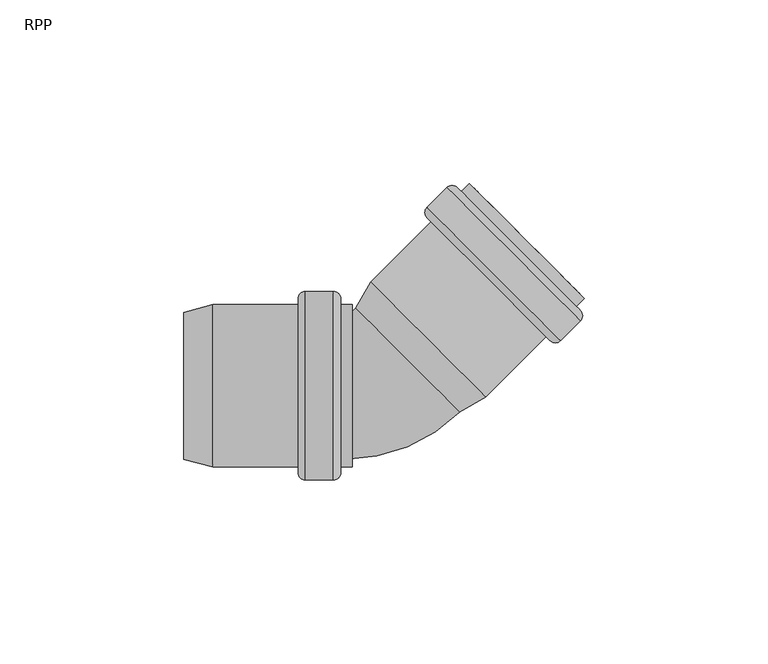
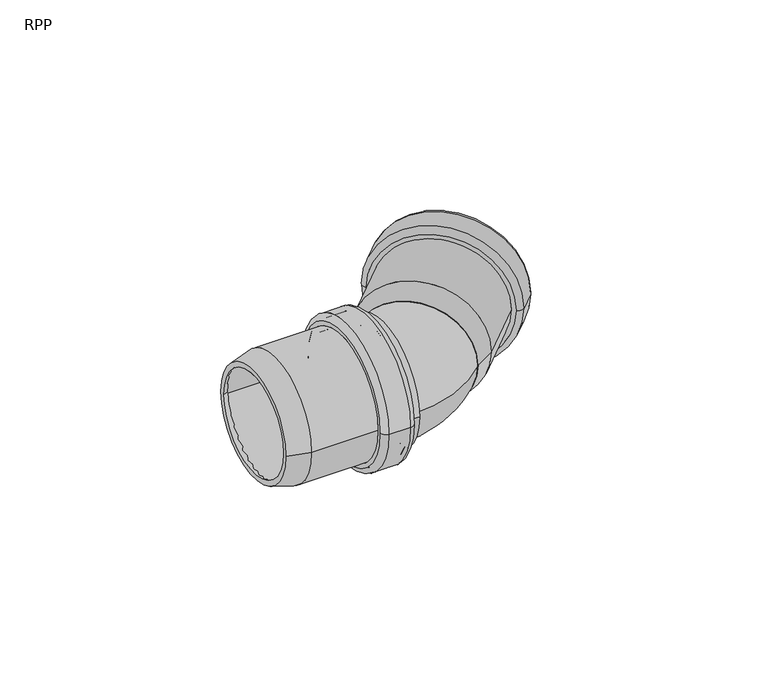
"""IFC4 building model written with IfcOpenShell, lengths in millimetres: pipe fitting geometry, RAUPIANO PLUS Bend : RPP."""

from ifc_helpers import new_model, si_unit, point, frame, origin, place, context, project, spatial, polyline, circle_curve, ellipse_curve, trimmed, source, transform, mapped, element, save
from ifc_brep_helpers import plane_surface, cylinder_surface, revolved_surface, advanced_brep


def rpp_f83cce01(model_context):
    return source(origin(), model_context, "Body", "AdvancedBrep", [
        advanced_brep(
        [(-21.0411255, -20.3, 0.0), (-21.0411255, 20.3, 0.0), (-45.8668443, 20.3, 0.0), (-45.8668443, -20.3, 0.0), (-20.5411255, -23.9, 0.0), (-20.5411255, 23.9, 0.0), (-21.0411255, 23.4, 0.0), (-21.0411255, -23.4, 0.0), (-13.5411255, -23.9, 0.0), (-13.5411255, 23.9, 0.0), (-13.0411255, -23.4, 0.0), (-13.0411255, 23.4, 0.0), (-8.1411255, -20.3, 0.0), (-8.1411255, 20.3, 0.0), (-13.0411255, 20.3, 0.0), (-13.0411255, -20.3, 0.0), (-11.2411255, -22.1, 0.0), (-11.2411255, 22.1, 0.0), (-8.1411255, 22.1, 0.0), (-8.1411255, -22.1, 0.0), (-13.2411255, -25.7, 0.0), (-13.2411255, 25.7, 0.0), (-11.2411255, 23.7, 0.0), (-11.2411255, -23.7, 0.0), (-20.8411255, -25.7, 0.0), (-20.8411255, 25.7, 0.0), (-22.8411255, -23.7, 0.0), (-22.8411255, 23.7, 0.0), (-46.1038188, -22.1, 0.0), (-46.1038188, 22.1, 0.0), (-22.8411255, 22.1, 0.0), (-22.8411255, -22.1, 0.0), (-53.9411255, -20.0, 0.0), (-53.9411255, 20.0, 0.0), (-53.9411255, 18.1365029, 0.0), (-53.9411255, -18.1365029, 0.0)],
        [
            (0, 1, circle_curve(frame((-21.0411255, 0.0, 0.0), z_axis=(1.0, 0.0, 0.0), x_axis=(0.0, 1.0, 0.0)), 20.3)),
            (1, 2),
            (2, 3, circle_curve(frame((-45.8668443, 0.0, 0.0), z_axis=(-1.0, 0.0, 0.0), x_axis=(0.0, 1.0, 0.0)), 20.3)),
            (3, 0),
            (4, 5, circle_curve(frame((-20.5411255, 0.0, 0.0), z_axis=(1.0, 0.0, 0.0), x_axis=(0.0, 1.0, 0.0)), 23.9)),
            (5, 6, circle_curve(frame((-20.5411255, 23.4, 0.0), z_axis=(0.0, 0.0, 1.0), x_axis=(0.0, -1.0, 0.0)), 0.5)),
            (6, 7, circle_curve(frame((-21.0411255, 0.0, 0.0), z_axis=(-1.0, 0.0, 0.0), x_axis=(0.0, 1.0, 0.0)), 23.4)),
            (7, 4, circle_curve(frame((-20.5411255, -23.4, 0.0), z_axis=(0.0, 0.0, 1.0), x_axis=(0.0, 1.0, 0.0)), 0.5)),
            (8, 9, circle_curve(frame((-13.5411255, 0.0, 0.0), z_axis=(1.0, 0.0, 0.0), x_axis=(0.0, 1.0, 0.0)), 23.9)),
            (9, 5),
            (4, 8),
            (10, 11, circle_curve(frame((-13.0411255, 0.0, 0.0), z_axis=(1.0, 0.0, 0.0), x_axis=(0.0, 1.0, 0.0)), 23.4)),
            (11, 9, circle_curve(frame((-13.5411255, 23.4, 0.0), z_axis=(0.0, 0.0, 1.0), x_axis=(0.0, -1.0, 0.0)), 0.5)),
            (8, 10, circle_curve(frame((-13.5411255, -23.4, 0.0), z_axis=(0.0, 0.0, 1.0), x_axis=(0.0, 1.0, 0.0)), 0.5)),
            (12, 13, circle_curve(frame((-8.1411255, 0.0, 0.0), z_axis=(1.0, 0.0, 0.0), x_axis=(0.0, 1.0, 0.0)), 20.3)),
            (13, 14),
            (14, 15, circle_curve(frame((-13.0411255, 0.0, 0.0), z_axis=(-1.0, 0.0, 0.0), x_axis=(0.0, 1.0, 0.0)), 20.3)),
            (15, 12),
            (16, 17, circle_curve(frame((-11.2411255, 0.0, 0.0), z_axis=(1.0, 0.0, 0.0), x_axis=(0.0, 1.0, 0.0)), 22.1)),
            (17, 18),
            (18, 19, circle_curve(frame((-8.1411255, 0.0, 0.0), z_axis=(-1.0, 0.0, 0.0), x_axis=(0.0, 1.0, 0.0)), 22.1)),
            (19, 16),
            (20, 21, circle_curve(frame((-13.2411255, 0.0, 0.0), z_axis=(1.0, 0.0, 0.0), x_axis=(0.0, 1.0, 0.0)), 25.7)),
            (21, 22, circle_curve(frame((-13.2411255, 23.7, 0.0), z_axis=(0.0, 0.0, -1.0), x_axis=(0.0, -1.0, 0.0)), 2.0)),
            (22, 23, circle_curve(frame((-11.2411255, 0.0, 0.0), z_axis=(-1.0, 0.0, 0.0), x_axis=(0.0, 1.0, 0.0)), 23.7)),
            (23, 20, circle_curve(frame((-13.2411255, -23.7, 0.0), z_axis=(0.0, 0.0, -1.0), x_axis=(0.0, 1.0, 0.0)), 2.0)),
            (24, 25, circle_curve(frame((-20.8411255, 0.0, 0.0), z_axis=(1.0, 0.0, 0.0), x_axis=(0.0, 1.0, 0.0)), 25.7)),
            (25, 21),
            (20, 24),
            (26, 27, circle_curve(frame((-22.8411255, 0.0, 0.0), z_axis=(1.0, 0.0, 0.0), x_axis=(0.0, 1.0, 0.0)), 23.7)),
            (27, 25, circle_curve(frame((-20.8411255, 23.7, 0.0), z_axis=(0.0, 0.0, -1.0), x_axis=(0.0, -1.0, 0.0)), 2.0)),
            (24, 26, circle_curve(frame((-20.8411255, -23.7, 0.0), z_axis=(0.0, 0.0, -1.0), x_axis=(0.0, 1.0, 0.0)), 2.0)),
            (28, 29, circle_curve(frame((-46.1038188, 0.0, 0.0), z_axis=(1.0, 0.0, 0.0), x_axis=(0.0, 1.0, 0.0)), 22.1)),
            (29, 30),
            (30, 31, circle_curve(frame((-22.8411255, 0.0, 0.0), z_axis=(-1.0, 0.0, 0.0), x_axis=(0.0, 1.0, 0.0)), 22.1)),
            (31, 28),
            (32, 33, circle_curve(frame((-53.9411255, 0.0, 0.0), z_axis=(1.0, 0.0, 0.0), x_axis=(0.0, 1.0, 0.0)), 20.0)),
            (33, 29),
            (28, 32),
            (2, 34),
            (34, 35, circle_curve(frame((-53.9411255, 0.0, 0.0), z_axis=(-1.0, 0.0, 0.0), x_axis=(0.0, 1.0, 0.0)), 18.1365029)),
            (35, 3),
            (1, 0, circle_curve(frame((-21.0411255, 0.0, 0.0), z_axis=(1.0, 0.0, 0.0), x_axis=(0.0, -1.0, 0.0)), 20.3)),
            (3, 2, circle_curve(frame((-45.8668443, 0.0, 0.0), z_axis=(-1.0, 0.0, 0.0), x_axis=(0.0, -1.0, 0.0)), 20.3)),
            (6, 7, circle_curve(frame((-21.0411255, 0.0, 0.0), z_axis=(1.0, 0.0, 0.0), x_axis=(0.0, -1.0, 0.0)), 23.4)),
            (5, 4, circle_curve(frame((-20.5411255, 0.0, 0.0), z_axis=(1.0, 0.0, 0.0), x_axis=(0.0, -1.0, 0.0)), 23.9)),
            (9, 8, circle_curve(frame((-13.5411255, 0.0, 0.0), z_axis=(1.0, 0.0, 0.0), x_axis=(0.0, -1.0, 0.0)), 23.9)),
            (11, 10, circle_curve(frame((-13.0411255, 0.0, 0.0), z_axis=(1.0, 0.0, 0.0), x_axis=(0.0, -1.0, 0.0)), 23.4)),
            (14, 15, circle_curve(frame((-13.0411255, 0.0, 0.0), z_axis=(1.0, 0.0, 0.0), x_axis=(0.0, -1.0, 0.0)), 20.3)),
            (13, 12, circle_curve(frame((-8.1411255, 0.0, 0.0), z_axis=(1.0, 0.0, 0.0), x_axis=(0.0, -1.0, 0.0)), 20.3)),
            (18, 19, circle_curve(frame((-8.1411255, 0.0, 0.0), z_axis=(1.0, 0.0, 0.0), x_axis=(0.0, -1.0, 0.0)), 22.1)),
            (17, 16, circle_curve(frame((-11.2411255, 0.0, 0.0), z_axis=(1.0, 0.0, 0.0), x_axis=(0.0, -1.0, 0.0)), 22.1)),
            (22, 23, circle_curve(frame((-11.2411255, 0.0, 0.0), z_axis=(1.0, 0.0, 0.0), x_axis=(0.0, -1.0, 0.0)), 23.7)),
            (21, 20, circle_curve(frame((-13.2411255, 0.0, 0.0), z_axis=(1.0, 0.0, 0.0), x_axis=(0.0, -1.0, 0.0)), 25.7)),
            (25, 24, circle_curve(frame((-20.8411255, 0.0, 0.0), z_axis=(1.0, 0.0, 0.0), x_axis=(0.0, -1.0, 0.0)), 25.7)),
            (27, 26, circle_curve(frame((-22.8411255, 0.0, 0.0), z_axis=(1.0, 0.0, 0.0), x_axis=(0.0, -1.0, 0.0)), 23.7)),
            (30, 31, circle_curve(frame((-22.8411255, 0.0, 0.0), z_axis=(1.0, 0.0, 0.0), x_axis=(0.0, -1.0, 0.0)), 22.1)),
            (29, 28, circle_curve(frame((-46.1038188, 0.0, 0.0), z_axis=(1.0, 0.0, 0.0), x_axis=(0.0, -1.0, 0.0)), 22.1)),
            (33, 32, circle_curve(frame((-53.9411255, 0.0, 0.0), z_axis=(1.0, 0.0, 0.0), x_axis=(0.0, -1.0, 0.0)), 20.0)),
            (34, 35, circle_curve(frame((-53.9411255, 0.0, 0.0), z_axis=(1.0, 0.0, 0.0), x_axis=(0.0, -1.0, 0.0)), 18.1365029)),
        ],
        [
            revolved_surface(polyline([(-45.8668443, 20.3, 0.0), (-21.0411255, 20.3, 0.0)]), (-53.9411255, 0.0, 0.0), (-1.0, 0.0, 0.0)),
            revolved_surface(trimmed(ellipse_curve(frame((-20.5411255, 23.4, 0.0), z_axis=(0.0, 0.0, -1.0), x_axis=(0.0, -1.0, 0.0)), 0.5, 0.5), [point((-21.0411255, 23.4, 0.0))], [point((-20.5411255, 23.9, 0.0))], True, "CARTESIAN"), (-53.9411255, 0.0, 0.0), (-1.0, 0.0, 0.0)),
            revolved_surface(polyline([(-20.5411255, 23.9, 0.0), (-13.5411255, 23.9, 0.0)]), (-53.9411255, 0.0, 0.0), (-1.0, 0.0, 0.0)),
            revolved_surface(trimmed(ellipse_curve(frame((-13.5411255, 23.4, 0.0), z_axis=(0.0, 0.0, -1.0), x_axis=(0.0, -1.0, 0.0)), 0.5, 0.5), [point((-13.5411255, 23.9, 0.0))], [point((-13.0411255, 23.4, 0.0))], True, "CARTESIAN"), (-53.9411255, 0.0, 0.0), (-1.0, 0.0, 0.0)),
            revolved_surface(polyline([(-13.0411255, 20.3, 0.0), (-8.141125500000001, 20.3, 0.0)]), (-53.9411255, 0.0, 0.0), (-1.0, 0.0, 0.0)),
            cylinder_surface(frame((-53.9411255, 0.0, 0.0), z_axis=(-1.0, 0.0, 0.0), x_axis=(0.0, 1.0, 0.0)), 22.1),
            revolved_surface(trimmed(ellipse_curve(frame((-13.2411255, 23.7, 0.0), z_axis=(0.0, 0.0, 1.0), x_axis=(0.0, -1.0, 0.0)), 2.0, 2.0), [point((-11.2411255, 23.7, 0.0))], [point((-13.2411255, 25.7, 0.0))], True, "CARTESIAN"), (-53.9411255, 0.0, 0.0), (-1.0, 0.0, 0.0)),
            cylinder_surface(frame((-53.9411255, 0.0, 0.0), z_axis=(-1.0, 0.0, 0.0), x_axis=(0.0, 1.0, 0.0)), 25.7),
            revolved_surface(trimmed(ellipse_curve(frame((-20.8411255, 23.7, 0.0), z_axis=(0.0, 0.0, 1.0), x_axis=(0.0, -1.0, 0.0)), 2.0, 2.0), [point((-20.8411255, 25.7, 0.0))], [point((-22.8411255, 23.7, 0.0))], True, "CARTESIAN"), (-53.9411255, 0.0, 0.0), (-1.0, 0.0, 0.0)),
            revolved_surface(polyline([(-46.1038188, 22.1, 0.0), (-53.9411255, 20.0, 0.0)]), (-53.9411255, 0.0, 0.0), (-1.0, 0.0, 0.0)),
            revolved_surface(polyline([(-53.9411255, 18.1365029, 0.0), (-45.8668443, 20.3, 0.0)]), (-53.9411255, 0.0, 0.0), (-1.0, 0.0, 0.0)),
            revolved_surface(polyline([(-45.8668443, -20.3, 0.0), (-21.0411255, -20.3, 0.0)]), (-53.9411255, 0.0, 0.0), (-1.0, 0.0, 0.0)),
            plane_surface(frame((-21.0411255, 0.0, 0.0), z_axis=(1.0, 0.0, 0.0), x_axis=(0.0, -1.0, 0.0))),
            revolved_surface(trimmed(ellipse_curve(frame((-20.5411255, -23.4, 0.0), z_axis=(0.0, 0.0, 1.0), x_axis=(0.0, 1.0, 0.0)), 0.5, 0.5), [point((-21.0411255, -23.4, 0.0))], [point((-20.5411255, -23.9, 0.0))], True, "CARTESIAN"), (-53.9411255, 0.0, 0.0), (-1.0, 0.0, 0.0)),
            revolved_surface(polyline([(-20.5411255, -23.9, 0.0), (-13.5411255, -23.9, 0.0)]), (-53.9411255, 0.0, 0.0), (-1.0, 0.0, 0.0)),
            revolved_surface(trimmed(ellipse_curve(frame((-13.5411255, -23.4, 0.0), z_axis=(0.0, 0.0, 1.0), x_axis=(0.0, 1.0, 0.0)), 0.5, 0.5), [point((-13.5411255, -23.9, 0.0))], [point((-13.0411255, -23.4, 0.0))], True, "CARTESIAN"), (-53.9411255, 0.0, 0.0), (-1.0, 0.0, 0.0)),
            plane_surface(frame((-13.0411255, 0.0, 0.0), z_axis=(-1.0, 0.0, 0.0), x_axis=(0.0, -1.0, 0.0))),
            revolved_surface(polyline([(-13.0411255, -20.3, 0.0), (-8.141125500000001, -20.3, 0.0)]), (-53.9411255, 0.0, 0.0), (-1.0, 0.0, 0.0)),
            plane_surface(frame((-8.1411255, 0.0, 0.0), z_axis=(1.0, 0.0, 0.0), x_axis=(0.0, -1.0, 0.0))),
            cylinder_surface(frame((-53.9411255, 0.0, 0.0), z_axis=(-1.0, 0.0, 0.0), x_axis=(0.0, -1.0, 0.0)), 22.1),
            plane_surface(frame((-11.2411255, 0.0, 0.0), z_axis=(1.0, 0.0, 0.0), x_axis=(0.0, -1.0, 0.0))),
            revolved_surface(trimmed(ellipse_curve(frame((-13.2411255, -23.7, 0.0), z_axis=(0.0, 0.0, -1.0), x_axis=(0.0, 1.0, 0.0)), 2.0, 2.0), [point((-11.2411255, -23.7, 0.0))], [point((-13.2411255, -25.7, 0.0))], True, "CARTESIAN"), (-53.9411255, 0.0, 0.0), (-1.0, 0.0, 0.0)),
            cylinder_surface(frame((-53.9411255, 0.0, 0.0), z_axis=(-1.0, 0.0, 0.0), x_axis=(0.0, -1.0, 0.0)), 25.7),
            revolved_surface(trimmed(ellipse_curve(frame((-20.8411255, -23.7, 0.0), z_axis=(0.0, 0.0, -1.0), x_axis=(0.0, 1.0, 0.0)), 2.0, 2.0), [point((-20.8411255, -25.7, 0.0))], [point((-22.8411255, -23.7, 0.0))], True, "CARTESIAN"), (-53.9411255, 0.0, 0.0), (-1.0, 0.0, 0.0)),
            plane_surface(frame((-22.8411255, 0.0, 0.0), z_axis=(-1.0, 0.0, 0.0), x_axis=(0.0, -1.0, 0.0))),
            revolved_surface(polyline([(-46.1038188, -22.1, 0.0), (-53.9411255, -20.0, 0.0)]), (-53.9411255, 0.0, 0.0), (-1.0, 0.0, 0.0)),
            plane_surface(frame((-53.9411255, 0.0, 0.0), z_axis=(-1.0, 0.0, 0.0), x_axis=(0.0, -1.0, 0.0))),
            revolved_surface(polyline([(-53.9411255, -18.1365029, 0.0), (-45.8668443, -20.3, 0.0)]), (-53.9411255, 0.0, 0.0), (-1.0, 0.0, 0.0)),
        ],
        [
            (0, [[1, 2, 3, 4]]),
            (1, [[5, 6, 7, 8]]),
            (2, [[9, 10, -5, 11]]),
            (3, [[12, 13, -9, 14]]),
            (4, [[15, 16, 17, 18]]),
            (5, [[19, 20, 21, 22]]),
            (6, [[23, 24, 25, 26]]),
            (7, [[27, 28, -23, 29]]),
            (8, [[30, 31, -27, 32]]),
            (5, [[33, 34, 35, 36]]),
            (9, [[37, 38, -33, 39]]),
            (10, [[-3, 40, 41, 42]]),
            (11, [[43, -4, 44, -2]]),
            (12, [[45, -7], [-43, -1]]),
            (13, [[46, -8, -45, -6]]),
            (14, [[47, -11, -46, -10]]),
            (15, [[48, -14, -47, -13]]),
            (16, [[-48, -12], [49, -17]]),
            (17, [[50, -18, -49, -16]]),
            (18, [[51, -21], [-50, -15]]),
            (19, [[52, -22, -51, -20]]),
            (20, [[53, -25], [-52, -19]]),
            (21, [[54, -26, -53, -24]]),
            (22, [[55, -29, -54, -28]]),
            (23, [[56, -32, -55, -31]]),
            (24, [[-56, -30], [57, -35]]),
            (19, [[58, -36, -57, -34]]),
            (25, [[59, -39, -58, -38]]),
            (26, [[-59, -37], [60, -41]]),
            (27, [[-44, -42, -60, -40]]),
        ],
    ),
        advanced_brep(
        [(19.8538814, -5.7950069, 0.0), (-5.7950069, 19.8538814, 0.0), (-1.6154514, 27.0930839, 0.0), (27.0930839, -1.6154514, 0.0), (28.1983098, -3.0558099, 0.0), (-3.0558099, 28.1983098, 0.0), (-7.1126984, 21.1715729, 0.0), (21.1715729, -7.1126984, 0.0), (44.647518, 13.3933983, 0.0), (13.3933983, 44.647518, 0.0), (53.9813275, 17.636039, 0.0), (17.636039, 53.9813275, 0.0), (12.2620274, 48.607316, 0.0), (48.607316, 12.2620274, 0.0), (55.0419877, 23.787868, 0.0), (23.787868, 55.0419877, 0.0), (21.5958369, 52.8499567, 0.0), (52.8499567, 21.5958369, 0.0), (50.3043723, 21.5958369, 0.0), (21.5958369, 50.3043723, 0.0), (25.0606602, 53.7691955, 0.0), (53.7691955, 25.0606602, 0.0), (47.5466558, 13.7469517, 0.0), (13.7469517, 47.5466558, 0.0), (18.6966991, 52.4964033, 0.0), (52.4964033, 18.6966991, 0.0), (15.9389827, 44.647518, 0.0), (44.647518, 15.9389827, 0.0), (12.2620274, 45.7788889, 0.0), (45.7788889, 12.2620274, 0.0), (53.9813275, 20.4644661, 0.0), (20.4644661, 53.9813275, 0.0), (19.4038059, 52.4964033, 0.0), (52.4964033, 19.4038059, 0.0), (46.839549, 13.7469517, 0.0), (13.7469517, 46.839549, 0.0)],
        [
            (0, 1, circle_curve(frame((7.0294373, 7.0294373, 0.0), z_axis=(-0.7071067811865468, -0.7071067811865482, 0.0), x_axis=(-0.7071067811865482, 0.7071067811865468, 0.0)), 18.1365029)),
            (1, 2),
            (2, 3, circle_curve(frame((12.7388162, 12.7388162, 0.0), z_axis=(0.7071067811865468, 0.7071067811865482, 0.0), x_axis=(-0.7071067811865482, 0.7071067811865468, 0.0)), 20.3)),
            (3, 0),
            (4, 5, circle_curve(frame((12.57125, 12.57125, 0.0), z_axis=(-0.7071067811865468, -0.7071067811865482, 0.0), x_axis=(-0.7071067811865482, 0.7071067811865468, 0.0)), 22.1)),
            (5, 6),
            (6, 7, circle_curve(frame((7.0294373, 7.0294373, 0.0), z_axis=(0.7071067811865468, 0.7071067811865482, 0.0), x_axis=(-0.7071067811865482, 0.7071067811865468, 0.0)), 20.0)),
            (7, 4),
            (8, 9, circle_curve(frame((29.0204581, 29.0204581, 0.0), z_axis=(-0.7071067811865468, -0.7071067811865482, 0.0), x_axis=(-0.7071067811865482, 0.7071067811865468, 0.0)), 22.1)),
            (9, 5),
            (4, 8),
            (10, 11, circle_curve(frame((35.8086832, 35.8086832, 0.0), z_axis=(-0.7071067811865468, -0.7071067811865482, 0.0), x_axis=(-0.7071067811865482, 0.7071067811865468, 0.0)), 25.7)),
            (11, 12),
            (12, 13, circle_curve(frame((30.4346717, 30.4346717, 0.0), z_axis=(0.7071067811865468, 0.7071067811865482, 0.0), x_axis=(-0.7071067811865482, 0.7071067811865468, 0.0)), 25.7)),
            (13, 10),
            (14, 15, circle_curve(frame((39.4149278, 39.4149278, 0.0), z_axis=(-0.7071067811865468, -0.7071067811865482, 0.0), x_axis=(-0.7071067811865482, 0.7071067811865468, 0.0)), 22.1)),
            (15, 16),
            (16, 17, circle_curve(frame((37.2228968, 37.2228968, 0.0), z_axis=(0.7071067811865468, 0.7071067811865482, 0.0), x_axis=(-0.7071067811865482, 0.7071067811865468, 0.0)), 22.1)),
            (17, 14),
            (18, 19, circle_curve(frame((35.9501046, 35.9501046, 0.0), z_axis=(-0.7071067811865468, -0.7071067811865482, 0.0), x_axis=(-0.7071067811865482, 0.7071067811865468, 0.0)), 20.3)),
            (19, 20),
            (20, 21, circle_curve(frame((39.4149278, 39.4149278, 0.0), z_axis=(0.7071067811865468, 0.7071067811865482, 0.0), x_axis=(-0.7071067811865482, 0.7071067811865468, 0.0)), 20.3)),
            (21, 18),
            (22, 23, circle_curve(frame((30.6468037, 30.6468037, 0.0), z_axis=(-0.7071067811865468, -0.7071067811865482, 0.0), x_axis=(-0.7071067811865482, 0.7071067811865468, 0.0)), 23.9)),
            (23, 24),
            (24, 25, circle_curve(frame((35.5965512, 35.5965512, 0.0), z_axis=(0.7071067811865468, 0.7071067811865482, 0.0), x_axis=(-0.7071067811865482, 0.7071067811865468, 0.0)), 23.9)),
            (25, 22),
            (2, 26),
            (26, 27, circle_curve(frame((30.2932504, 30.2932504, 0.0), z_axis=(0.7071067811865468, 0.7071067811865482, 0.0), x_axis=(-0.7071067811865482, 0.7071067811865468, 0.0)), 20.3)),
            (27, 3),
            (1, 0, circle_curve(frame((7.0294373, 7.0294373, 0.0), z_axis=(-0.7071067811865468, -0.7071067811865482, 0.0), x_axis=(0.7071067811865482, -0.7071067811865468, 0.0)), 18.1365029)),
            (3, 2, circle_curve(frame((12.7388162, 12.7388162, 0.0), z_axis=(0.7071067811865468, 0.7071067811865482, 0.0), x_axis=(0.7071067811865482, -0.7071067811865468, 0.0)), 20.3)),
            (6, 7, circle_curve(frame((7.0294373, 7.0294373, 0.0), z_axis=(-0.7071067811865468, -0.7071067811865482, 0.0), x_axis=(0.7071067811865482, -0.7071067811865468, 0.0)), 20.0)),
            (5, 4, circle_curve(frame((12.57125, 12.57125, 0.0), z_axis=(-0.7071067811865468, -0.7071067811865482, 0.0), x_axis=(0.7071067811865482, -0.7071067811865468, 0.0)), 22.1)),
            (9, 8, circle_curve(frame((29.0204581, 29.0204581, 0.0), z_axis=(-0.7071067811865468, -0.7071067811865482, 0.0), x_axis=(0.7071067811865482, -0.7071067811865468, 0.0)), 22.1)),
            (28, 29, circle_curve(frame((29.0204581, 29.0204581, 0.0), z_axis=(-0.7071067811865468, -0.7071067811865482, 0.0), x_axis=(0.7071067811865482, -0.7071067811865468, 0.0)), 23.7)),
            (29, 28, circle_curve(frame((29.0204581, 29.0204581, 0.0), z_axis=(-0.7071067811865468, -0.7071067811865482, 0.0), x_axis=(-0.7071067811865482, 0.7071067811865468, 0.0)), 23.7)),
            (11, 10, circle_curve(frame((35.8086832, 35.8086832, 0.0), z_axis=(-0.7071067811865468, -0.7071067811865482, 0.0), x_axis=(0.7071067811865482, -0.7071067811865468, 0.0)), 25.7)),
            (13, 12, circle_curve(frame((30.4346717, 30.4346717, 0.0), z_axis=(0.7071067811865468, 0.7071067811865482, 0.0), x_axis=(0.7071067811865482, -0.7071067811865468, 0.0)), 25.7)),
            (30, 31, circle_curve(frame((37.2228968, 37.2228968, 0.0), z_axis=(0.7071067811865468, 0.7071067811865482, 0.0), x_axis=(0.7071067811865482, -0.7071067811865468, 0.0)), 23.7)),
            (31, 30, circle_curve(frame((37.2228968, 37.2228968, 0.0), z_axis=(0.7071067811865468, 0.7071067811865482, 0.0), x_axis=(-0.7071067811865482, 0.7071067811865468, 0.0)), 23.7)),
            (16, 17, circle_curve(frame((37.2228968, 37.2228968, 0.0), z_axis=(-0.7071067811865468, -0.7071067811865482, 0.0), x_axis=(0.7071067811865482, -0.7071067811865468, 0.0)), 22.1)),
            (15, 14, circle_curve(frame((39.4149278, 39.4149278, 0.0), z_axis=(-0.7071067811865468, -0.7071067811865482, 0.0), x_axis=(0.7071067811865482, -0.7071067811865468, 0.0)), 22.1)),
            (20, 21, circle_curve(frame((39.4149278, 39.4149278, 0.0), z_axis=(-0.7071067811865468, -0.7071067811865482, 0.0), x_axis=(0.7071067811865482, -0.7071067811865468, 0.0)), 20.3)),
            (19, 18, circle_curve(frame((35.9501046, 35.9501046, 0.0), z_axis=(-0.7071067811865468, -0.7071067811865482, 0.0), x_axis=(0.7071067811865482, -0.7071067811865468, 0.0)), 20.3)),
            (32, 33, circle_curve(frame((35.9501046, 35.9501046, 0.0), z_axis=(-0.7071067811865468, -0.7071067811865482, 0.0), x_axis=(0.7071067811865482, -0.7071067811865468, 0.0)), 23.4)),
            (33, 32, circle_curve(frame((35.9501046, 35.9501046, 0.0), z_axis=(-0.7071067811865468, -0.7071067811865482, 0.0), x_axis=(-0.7071067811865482, 0.7071067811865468, 0.0)), 23.4)),
            (23, 22, circle_curve(frame((30.6468037, 30.6468037, 0.0), z_axis=(-0.7071067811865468, -0.7071067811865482, 0.0), x_axis=(0.7071067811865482, -0.7071067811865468, 0.0)), 23.9)),
            (25, 24, circle_curve(frame((35.5965512, 35.5965512, 0.0), z_axis=(0.7071067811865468, 0.7071067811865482, 0.0), x_axis=(0.7071067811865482, -0.7071067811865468, 0.0)), 23.9)),
            (34, 35, circle_curve(frame((30.2932504, 30.2932504, 0.0), z_axis=(0.7071067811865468, 0.7071067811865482, 0.0), x_axis=(0.7071067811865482, -0.7071067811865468, 0.0)), 23.4)),
            (35, 34, circle_curve(frame((30.2932504, 30.2932504, 0.0), z_axis=(0.7071067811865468, 0.7071067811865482, 0.0), x_axis=(-0.7071067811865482, 0.7071067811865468, 0.0)), 23.4)),
            (26, 27, circle_curve(frame((30.2932504, 30.2932504, 0.0), z_axis=(-0.7071067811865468, -0.7071067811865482, 0.0), x_axis=(0.7071067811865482, -0.7071067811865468, 0.0)), 20.3)),
            (12, 28, circle_curve(frame((13.676241, 47.1931024, 0.0), z_axis=(0.0, 0.0, 1.0), x_axis=(0.7071067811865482, -0.7071067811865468, 0.0)), 2.0)),
            (29, 13, circle_curve(frame((47.1931024, 13.676241, 0.0), z_axis=(0.0, 0.0, 1.0), x_axis=(-0.7071067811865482, 0.7071067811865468, 0.0)), 2.0)),
            (31, 11, circle_curve(frame((19.0502525, 52.567114, 0.0), z_axis=(0.0, 0.0, 1.0), x_axis=(0.7071067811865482, -0.7071067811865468, 0.0)), 2.0)),
            (10, 30, circle_curve(frame((52.567114, 19.0502525, 0.0), z_axis=(0.0, 0.0, 1.0), x_axis=(-0.7071067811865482, 0.7071067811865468, 0.0)), 2.0)),
            (24, 32, circle_curve(frame((19.0502525, 52.1428499, 0.0), z_axis=(0.0, 0.0, -1.0), x_axis=(0.7071067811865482, -0.7071067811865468, 0.0)), 0.5)),
            (33, 25, circle_curve(frame((52.1428499, 19.0502525, 0.0), z_axis=(0.0, 0.0, -1.0), x_axis=(-0.7071067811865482, 0.7071067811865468, 0.0)), 0.5)),
            (35, 23, circle_curve(frame((14.1005051, 47.1931024, 0.0), z_axis=(0.0, 0.0, -1.0), x_axis=(0.7071067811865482, -0.7071067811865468, 0.0)), 0.5)),
            (22, 34, circle_curve(frame((47.1931024, 14.1005051, 0.0), z_axis=(0.0, 0.0, -1.0), x_axis=(-0.7071067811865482, 0.7071067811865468, 0.0)), 0.5)),
        ],
        [
            revolved_surface(polyline([(-1.6154514, 27.0930839, 0.0), (-5.7950069, 19.8538814, 0.0)]), (7.0294373, 7.0294373, 0.0), (0.7071067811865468, 0.7071067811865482, 0.0)),
            revolved_surface(polyline([(-7.1126984, 21.1715729, 0.0), (-3.0558099, 28.1983098, 0.0)]), (7.0294373, 7.0294373, 0.0), (0.7071067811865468, 0.7071067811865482, 0.0)),
            cylinder_surface(frame((7.0294373, 7.0294373, 0.0), z_axis=(0.7071067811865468, 0.7071067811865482, 0.0), x_axis=(-0.7071067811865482, 0.7071067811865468, 0.0)), 22.1),
            cylinder_surface(frame((7.0294373, 7.0294373, 0.0), z_axis=(0.7071067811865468, 0.7071067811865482, 0.0), x_axis=(-0.7071067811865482, 0.7071067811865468, 0.0)), 25.7),
            revolved_surface(polyline([(25.06066019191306, 53.76919550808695, 0.0), (21.59583694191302, 50.304372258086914, 0.0)]), (7.0294373, 7.0294373, 0.0), (0.7071067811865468, 0.7071067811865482, 0.0)),
            revolved_surface(polyline([(18.696699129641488, 52.49640327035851, 0.0), (13.746951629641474, 47.54665577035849, 0.0)]), (7.0294373, 7.0294373, 0.0), (0.7071067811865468, 0.7071067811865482, 0.0)),
            revolved_surface(polyline([(15.938982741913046, 44.64751805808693, 0.0), (-1.6154514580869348, 27.093083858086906, 0.0)]), (7.0294373, 7.0294373, 0.0), (0.7071067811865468, 0.7071067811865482, 0.0)),
            revolved_surface(polyline([(27.0930839, -1.6154514, 0.0), (19.8538814, -5.7950069, 0.0)]), (7.0294373, 7.0294373, 0.0), (0.7071067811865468, 0.7071067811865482, 0.0)),
            plane_surface(frame((7.0294373, 7.0294373, 0.0), z_axis=(-0.7071067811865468, -0.7071067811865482, 0.0), x_axis=(0.7071067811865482, -0.7071067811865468, 0.0))),
            revolved_surface(polyline([(21.1715729, -7.1126984, 0.0), (28.1983098, -3.0558099, 0.0)]), (7.0294373, 7.0294373, 0.0), (0.7071067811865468, 0.7071067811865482, 0.0)),
            cylinder_surface(frame((7.0294373, 7.0294373, 0.0), z_axis=(0.7071067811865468, 0.7071067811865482, 0.0), x_axis=(0.7071067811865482, -0.7071067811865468, 0.0)), 22.1),
            plane_surface(frame((29.0204581, 29.0204581, 0.0), z_axis=(-0.7071067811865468, -0.7071067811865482, 0.0), x_axis=(0.7071067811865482, -0.7071067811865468, 0.0))),
            cylinder_surface(frame((7.0294373, 7.0294373, 0.0), z_axis=(0.7071067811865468, 0.7071067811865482, 0.0), x_axis=(0.7071067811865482, -0.7071067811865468, 0.0)), 25.7),
            plane_surface(frame((37.2228968, 37.2228968, 0.0), z_axis=(0.7071067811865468, 0.7071067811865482, 0.0), x_axis=(0.7071067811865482, -0.7071067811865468, 0.0))),
            plane_surface(frame((39.4149278, 39.4149278, 0.0), z_axis=(0.7071067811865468, 0.7071067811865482, 0.0), x_axis=(0.7071067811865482, -0.7071067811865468, 0.0))),
            revolved_surface(polyline([(53.769195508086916, 25.06066019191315, 0.0), (50.304372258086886, 21.595836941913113, 0.0)]), (7.0294373, 7.0294373, 0.0), (0.7071067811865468, 0.7071067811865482, 0.0)),
            plane_surface(frame((35.9501046, 35.9501046, 0.0), z_axis=(-0.7071067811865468, -0.7071067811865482, 0.0), x_axis=(0.7071067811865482, -0.7071067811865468, 0.0))),
            revolved_surface(polyline([(52.4964032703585, 18.69669912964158, 0.0), (47.546655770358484, 13.746951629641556, 0.0)]), (7.0294373, 7.0294373, 0.0), (0.7071067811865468, 0.7071067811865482, 0.0)),
            plane_surface(frame((30.2932504, 30.2932504, 0.0), z_axis=(0.7071067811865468, 0.7071067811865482, 0.0), x_axis=(0.7071067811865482, -0.7071067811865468, 0.0))),
            revolved_surface(polyline([(44.6475180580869, 15.938982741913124, 0.0), (27.093083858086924, -1.6154514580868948, 0.0)]), (7.0294373, 7.0294373, 0.0), (0.7071067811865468, 0.7071067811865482, 0.0)),
            revolved_surface(trimmed(ellipse_curve(frame((13.676241, 47.1931024, 0.0), z_axis=(0.0, 0.0, -1.0), x_axis=(0.7071067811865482, -0.7071067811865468, 0.0)), 2.0, 2.0), [point((12.2620274, 45.7788889, 0.0))], [point((12.2620274, 48.607316, 0.0))], True, "CARTESIAN"), (7.0294373, 7.0294373, 0.0), (0.7071067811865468, 0.7071067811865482, 0.0)),
            revolved_surface(trimmed(ellipse_curve(frame((19.0502525, 52.567114, 0.0), z_axis=(0.0, 0.0, -1.0), x_axis=(0.7071067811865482, -0.7071067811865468, 0.0)), 2.0, 2.0), [point((17.636039, 53.9813275, 0.0))], [point((20.4644661, 53.9813275, 0.0))], True, "CARTESIAN"), (7.0294373, 7.0294373, 0.0), (0.7071067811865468, 0.7071067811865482, 0.0)),
            revolved_surface(trimmed(ellipse_curve(frame((19.0502525, 52.1428499, 0.0), z_axis=(0.0, 0.0, 1.0), x_axis=(0.7071067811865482, -0.7071067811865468, 0.0)), 0.5, 0.5), [point((19.4038059, 52.4964033, 0.0))], [point((18.6966991, 52.4964033, 0.0))], True, "CARTESIAN"), (7.0294373, 7.0294373, 0.0), (0.7071067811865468, 0.7071067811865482, 0.0)),
            revolved_surface(trimmed(ellipse_curve(frame((14.1005051, 47.1931024, 0.0), z_axis=(0.0, 0.0, 1.0), x_axis=(0.7071067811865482, -0.7071067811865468, 0.0)), 0.5, 0.5), [point((13.7469517, 47.5466558, 0.0))], [point((13.7469517, 46.839549, 0.0))], True, "CARTESIAN"), (7.0294373, 7.0294373, 0.0), (0.7071067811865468, 0.7071067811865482, 0.0)),
            revolved_surface(trimmed(ellipse_curve(frame((47.1931024, 13.676241, 0.0), z_axis=(0.0, 0.0, 1.0), x_axis=(-0.7071067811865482, 0.7071067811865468, 0.0)), 2.0, 2.0), [point((45.7788889, 12.2620274, 0.0))], [point((48.607316, 12.2620274, 0.0))], True, "CARTESIAN"), (7.0294373, 7.0294373, 0.0), (0.7071067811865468, 0.7071067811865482, 0.0)),
            revolved_surface(trimmed(ellipse_curve(frame((52.567114, 19.0502525, 0.0), z_axis=(0.0, 0.0, 1.0), x_axis=(-0.7071067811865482, 0.7071067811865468, 0.0)), 2.0, 2.0), [point((53.9813275, 17.636039, 0.0))], [point((53.9813275, 20.4644661, 0.0))], True, "CARTESIAN"), (7.0294373, 7.0294373, 0.0), (0.7071067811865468, 0.7071067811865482, 0.0)),
            revolved_surface(trimmed(ellipse_curve(frame((52.1428499, 19.0502525, 0.0), z_axis=(0.0, 0.0, -1.0), x_axis=(-0.7071067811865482, 0.7071067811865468, 0.0)), 0.5, 0.5), [point((52.4964033, 19.4038059, 0.0))], [point((52.4964033, 18.6966991, 0.0))], True, "CARTESIAN"), (7.0294373, 7.0294373, 0.0), (0.7071067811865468, 0.7071067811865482, 0.0)),
            revolved_surface(trimmed(ellipse_curve(frame((47.1931024, 14.1005051, 0.0), z_axis=(0.0, 0.0, -1.0), x_axis=(-0.7071067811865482, 0.7071067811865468, 0.0)), 0.5, 0.5), [point((47.5466558, 13.7469517, 0.0))], [point((46.839549, 13.7469517, 0.0))], True, "CARTESIAN"), (7.0294373, 7.0294373, 0.0), (0.7071067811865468, 0.7071067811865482, 0.0)),
        ],
        [
            (0, [[1, 2, 3, 4]]),
            (1, [[5, 6, 7, 8]]),
            (2, [[9, 10, -5, 11]]),
            (3, [[12, 13, 14, 15]]),
            (2, [[16, 17, 18, 19]]),
            (4, [[20, 21, 22, 23]]),
            (5, [[24, 25, 26, 27]]),
            (6, [[-3, 28, 29, 30]]),
            (7, [[31, -4, 32, -2]]),
            (8, [[33, -7], [-31, -1]]),
            (9, [[34, -8, -33, -6]]),
            (10, [[35, -11, -34, -10]]),
            (11, [[36, 37], [-35, -9]]),
            (12, [[38, -15, 39, -13]]),
            (13, [[40, 41], [42, -18]]),
            (10, [[43, -19, -42, -17]]),
            (14, [[-43, -16], [44, -22]]),
            (15, [[45, -23, -44, -21]]),
            (16, [[46, 47], [-45, -20]]),
            (17, [[48, -27, 49, -25]]),
            (18, [[50, 51], [52, -29]]),
            (19, [[-32, -30, -52, -28]]),
            (20, [[-14, 53, -37, 54]]),
            (21, [[-41, 55, -12, 56]]),
            (22, [[-26, 57, -47, 58]]),
            (23, [[-51, 59, -24, 60]]),
            (24, [[-39, -54, -36, -53]]),
            (25, [[-40, -56, -38, -55]]),
            (26, [[-49, -58, -46, -57]]),
            (27, [[-50, -60, -48, -59]]),
        ],
    ),
        advanced_brep(
        [(-9.9411255, 18.2, 0.0), (-9.9411255, -18.2, 0.0), (-53.9411255, -18.2, 0.0), (-53.9411255, 18.2, 0.0), (-50.2090747, 20.0, 0.0), (-50.2090747, -20.0, 0.0), (-9.9411255, -20.0, 0.0), (-9.9411255, 20.0, 0.0), (-53.9411255, 19.0, 0.0), (-53.9411255, -19.0, 0.0)],
        [
            (0, 1, circle_curve(frame((-9.9411255, 0.0, 0.0), z_axis=(1.0, 0.0, 0.0), x_axis=(0.0, -1.0, 0.0)), 18.2)),
            (1, 2),
            (2, 3, circle_curve(frame((-53.9411255, 0.0, 0.0), z_axis=(-1.0, 0.0, 0.0), x_axis=(0.0, -1.0, 0.0)), 18.2)),
            (3, 0),
            (4, 5, circle_curve(frame((-50.2090747, 0.0, 0.0), z_axis=(1.0, 0.0, 0.0), x_axis=(0.0, -1.0, 0.0)), 20.0)),
            (5, 6),
            (6, 7, circle_curve(frame((-9.9411255, 0.0, 0.0), z_axis=(-1.0, 0.0, 0.0), x_axis=(0.0, -1.0, 0.0)), 20.0)),
            (7, 4),
            (8, 9, circle_curve(frame((-53.9411255, 0.0, 0.0), z_axis=(1.0, 0.0, 0.0), x_axis=(0.0, -1.0, 0.0)), 19.0)),
            (9, 5),
            (4, 8),
            (1, 0, circle_curve(frame((-9.9411255, 0.0, 0.0), z_axis=(1.0, 0.0, 0.0), x_axis=(0.0, 1.0, 0.0)), 18.2)),
            (3, 2, circle_curve(frame((-53.9411255, 0.0, 0.0), z_axis=(-1.0, 0.0, 0.0), x_axis=(0.0, 1.0, 0.0)), 18.2)),
            (6, 7, circle_curve(frame((-9.9411255, 0.0, 0.0), z_axis=(1.0, 0.0, 0.0), x_axis=(0.0, 1.0, 0.0)), 20.0)),
            (5, 4, circle_curve(frame((-50.2090747, 0.0, 0.0), z_axis=(1.0, 0.0, 0.0), x_axis=(0.0, 1.0, 0.0)), 20.0)),
            (9, 8, circle_curve(frame((-53.9411255, 0.0, 0.0), z_axis=(1.0, 0.0, 0.0), x_axis=(0.0, 1.0, 0.0)), 19.0)),
        ],
        [
            revolved_surface(polyline([(-53.9411255, -18.2, 0.0), (-9.9411255, -18.2, 0.0)]), (-9.9411255, 0.0, 0.0), (-1.0, 0.0, 0.0)),
            cylinder_surface(frame((-9.9411255, 0.0, 0.0), z_axis=(-1.0, 0.0, 0.0), x_axis=(0.0, -1.0, 0.0)), 20.0),
            revolved_surface(polyline([(-50.2090747, -20.0, 0.0), (-53.9411255, -19.0, 0.0)]), (-9.9411255, 0.0, 0.0), (-1.0, 0.0, 0.0)),
            revolved_surface(polyline([(-53.9411255, 18.2, 0.0), (-9.9411255, 18.2, 0.0)]), (-9.9411255, 0.0, 0.0), (-1.0, 0.0, 0.0)),
            plane_surface(frame((-9.9411255, 0.0, 0.0), z_axis=(1.0, 0.0, 0.0), x_axis=(0.0, 1.0, 0.0))),
            cylinder_surface(frame((-9.9411255, 0.0, 0.0), z_axis=(-1.0, 0.0, 0.0), x_axis=(0.0, 1.0, 0.0)), 20.0),
            revolved_surface(polyline([(-50.2090747, 20.0, 0.0), (-53.9411255, 19.0, 0.0)]), (-9.9411255, 0.0, 0.0), (-1.0, 0.0, 0.0)),
            plane_surface(frame((-53.9411255, 0.0, 0.0), z_axis=(-1.0, 0.0, 0.0), x_axis=(0.0, 1.0, 0.0))),
        ],
        [
            (0, [[1, 2, 3, 4]]),
            (1, [[5, 6, 7, 8]]),
            (2, [[9, 10, -5, 11]]),
            (3, [[12, -4, 13, -2]]),
            (4, [[14, -7], [-12, -1]]),
            (5, [[15, -8, -14, -6]]),
            (6, [[16, -11, -15, -10]]),
            (7, [[-16, -9], [-13, -3]]),
        ],
    ),
        advanced_brep(
        [(-9.9411255, -20.0, 0.0), (-9.9411255, 20.0, 0.0), (-9.9411255, -18.2, 0.0), (-9.9411255, 18.2, 0.0), (21.1715729, -7.1126984, 0.0), (-7.1126984, 21.1715729, 0.0), (19.8987807, -5.8399062, 0.0), (-5.8399062, 19.8987807, 0.0)],
        [
            (0, 1, circle_curve(frame((-9.9411255, 0.0, 0.0), z_axis=(-1.0, 0.0, 0.0), x_axis=(0.0, 1.0, 0.0)), 20.0)),
            (1, 0, circle_curve(frame((-9.9411255, 0.0, 0.0), z_axis=(-1.0, 0.0, 0.0), x_axis=(0.0, 1.0, 0.0)), 20.0)),
            (2, 3, circle_curve(frame((-9.9411255, 0.0, 0.0), z_axis=(1.0, 0.0, 0.0), x_axis=(0.0, 1.0, 0.0)), 18.2)),
            (3, 2, circle_curve(frame((-9.9411255, 0.0, 0.0), z_axis=(1.0, 0.0, 0.0), x_axis=(0.0, 1.0, 0.0)), 18.2)),
            (4, 5, circle_curve(frame((7.0294373, 7.0294373, 0.0), z_axis=(0.7071067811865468, 0.7071067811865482, 0.0), x_axis=(-0.7071067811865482, 0.7071067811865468, 0.0)), 20.0)),
            (5, 4, circle_curve(frame((7.0294373, 7.0294373, 0.0), z_axis=(0.7071067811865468, 0.7071067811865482, 0.0), x_axis=(-0.7071067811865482, 0.7071067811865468, 0.0)), 20.0)),
            (6, 7, circle_curve(frame((7.0294373, 7.0294373, 0.0), z_axis=(-0.7071067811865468, -0.7071067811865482, 0.0), x_axis=(-0.7071067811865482, 0.7071067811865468, 0.0)), 18.2)),
            (7, 6, circle_curve(frame((7.0294373, 7.0294373, 0.0), z_axis=(-0.7071067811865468, -0.7071067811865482, 0.0), x_axis=(-0.7071067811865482, 0.7071067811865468, 0.0)), 18.2)),
            (7, 3, circle_curve(frame((-9.9411255, 24.0, 0.0), z_axis=(0.0, 0.0, -1.0), x_axis=(0.0, -1.0, 0.0)), 5.8)),
            (2, 6, circle_curve(frame((-9.9411255, 24.0, 0.0), z_axis=(0.0, 0.0, 1.0), x_axis=(0.0, -1.0, 0.0)), 42.2)),
            (5, 1, circle_curve(frame((-9.9411255, 24.0, 0.0), z_axis=(0.0, 0.0, -1.0), x_axis=(0.0, -1.0, 0.0)), 4.0)),
            (0, 4, circle_curve(frame((-9.9411255, 24.0, 0.0), z_axis=(0.0, 0.0, 1.0), x_axis=(0.0, -1.0, 0.0)), 44.0)),
        ],
        [
            plane_surface(frame((-9.9411255, 0.0, 0.0), z_axis=(-1.0, 0.0, 0.0), x_axis=(0.0, 0.0, 1.0))),
            plane_surface(frame((7.0294373, 7.0294373, 0.0), z_axis=(0.7071067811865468, 0.7071067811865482, 0.0), x_axis=(0.0, 0.0, 1.0))),
            revolved_surface(trimmed(ellipse_curve(frame((-9.9411255, 0.0, 0.0), z_axis=(1.0, 0.0, 0.0), x_axis=(0.0, 1.0, 0.0)), 18.2, 18.2), [point((-9.9411255, -18.2, 0.0))], [point((-9.9411255, 18.2, 0.0))], True, "CARTESIAN"), (-9.9411255, 24.0, 0.0), (0.0, 0.0, 1.0)),
            revolved_surface(trimmed(ellipse_curve(frame((-9.9411255, 0.0, 0.0), z_axis=(1.0, 0.0, 0.0), x_axis=(0.0, 1.0, 0.0)), 18.2, 18.2), [point((-9.9411255, 18.2, 0.0))], [point((-9.9411255, -18.2, 0.0))], True, "CARTESIAN"), (-9.9411255, 24.0, 0.0), (0.0, 0.0, 1.0)),
            revolved_surface(trimmed(ellipse_curve(frame((-9.9411255, 0.0, 0.0), z_axis=(-1.0, 0.0, 0.0), x_axis=(0.0, 1.0, 0.0)), 20.0, 20.0), [point((-9.9411255, -20.0, 0.0))], [point((-9.9411255, 20.0, 0.0))], True, "CARTESIAN"), (-9.9411255, 24.0, 0.0), (0.0, 0.0, 1.0)),
            revolved_surface(trimmed(ellipse_curve(frame((-9.9411255, 0.0, 0.0), z_axis=(-1.0, 0.0, 0.0), x_axis=(0.0, 1.0, 0.0)), 20.0, 20.0), [point((-9.9411255, 20.0, 0.0))], [point((-9.9411255, -20.0, 0.0))], True, "CARTESIAN"), (-9.9411255, 24.0, 0.0), (0.0, 0.0, 1.0)),
        ],
        [
            (0, [[1, 2], [3, 4]]),
            (1, [[5, 6], [7, 8]]),
            (2, [[9, -3, 10, -8]]),
            (3, [[-10, -4, -9, -7]]),
            (4, [[11, -1, 12, -6]]),
            (5, [[-12, -2, -11, -5]]),
        ],
    ),
    ])


if __name__ == "__main__":
    model = new_model("IFC4")
    model_context = context("Model", 3, world=origin())
    ifc_project = project(units=[si_unit("LENGTHUNIT", "METRE", prefix="MILLI")], contexts=[model_context])
    site = spatial("IfcSite", under=ifc_project)
    building = spatial("IfcBuilding", under=site)
    placement = place(None, origin())
    rpp_shape = rpp_f83cce01(model_context)
    element("IfcPipeFitting", 1, ObjectType="RAUPIANO PLUS Bend : RPP", at=placement, inside=building, context=model_context, shape_type="MappedRepresentation", body=[
        mapped(rpp_shape, transform((0.0, 0.0, 0.0), x_axis=(1.0, 0.0, 0.0), y_axis=(0.0, 1.0, 0.0), z_axis=(0.0, 0.0, 1.0))),
    ])
    save(model, "model.ifc")
